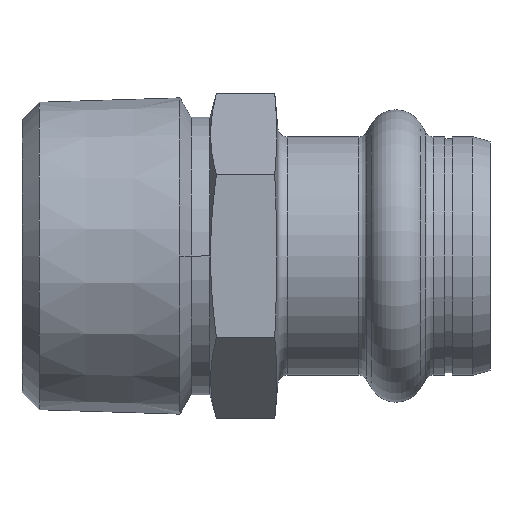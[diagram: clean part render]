
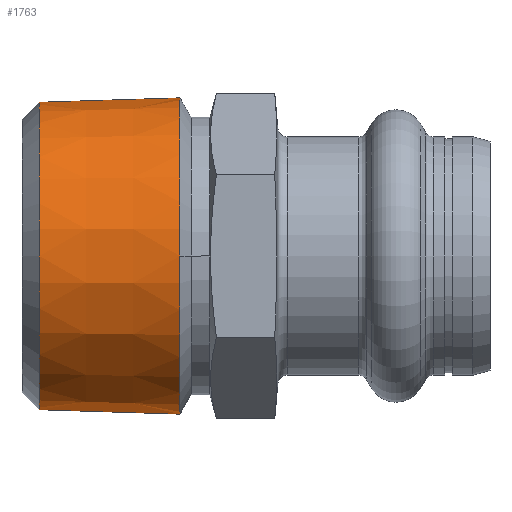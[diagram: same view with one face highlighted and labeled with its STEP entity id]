
A CAD part, left-side view. The second image highlights one B-rep face of the part: STEP entity #1763.
In plain terms, the highlighted conical face has half-angle 1.78 degrees and reference radius 16.855 mm.
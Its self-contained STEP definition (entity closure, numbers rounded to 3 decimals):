
#36 = DIRECTION ( 'NONE',  ( 0., -1., 0. ) ) ;
#178 = DIRECTION ( 'NONE',  ( 0., -1., 0. ) ) ;
#186 = DIRECTION ( 'NONE',  ( -1., 0., 0. ) ) ;
#195 = CARTESIAN_POINT ( 'NONE',  ( 0., 32.997, 0. ) ) ;
#232 = VERTEX_POINT ( 'NONE', #677 ) ;
#331 = CARTESIAN_POINT ( 'NONE',  ( 0., 32., -16.854 ) ) ;
#362 = DIRECTION ( 'NONE',  ( 0., 0., -1. ) ) ;
#386 = CARTESIAN_POINT ( 'NONE',  ( 0., 32., 16.854 ) ) ;
#391 = DIRECTION ( 'NONE',  ( 0., -1., 0.031 ) ) ;
#473 = CARTESIAN_POINT ( 'NONE',  ( 0., 32., 0. ) ) ;
#495 = AXIS2_PLACEMENT_3D ( 'NONE', #473, #178, #362 ) ;
#521 = ORIENTED_EDGE ( 'NONE', *, *, #1563, .F. ) ;
#532 = EDGE_CURVE ( 'NONE', #232, #1247, #1710, .T. ) ;
#550 = VECTOR ( 'NONE', #391, 1000. ) ;
#558 = DIRECTION ( 'NONE',  ( 0., -1., 0. ) ) ;
#623 = CIRCLE ( 'NONE', #808, 16.823 ) ;
#631 = AXIS2_PLACEMENT_3D ( 'NONE', #956, #558, #998 ) ;
#677 = CARTESIAN_POINT ( 'NONE',  ( 0., 47.941, 16.359 ) ) ;
#691 = VERTEX_POINT ( 'NONE', #975 ) ;
#722 = CARTESIAN_POINT ( 'NONE',  ( 0., 32.997, 16.823 ) ) ;
#732 = DIRECTION ( 'NONE',  ( 0., -1., -0.031 ) ) ;
#808 = AXIS2_PLACEMENT_3D ( 'NONE', #195, #36, #186 ) ;
#839 = ORIENTED_EDGE ( 'NONE', *, *, #1094, .F. ) ;
#908 = ORIENTED_EDGE ( 'NONE', *, *, #1841, .F. ) ;
#956 = CARTESIAN_POINT ( 'NONE',  ( 0., 32.997, 0. ) ) ;
#975 = CARTESIAN_POINT ( 'NONE',  ( -16.823, 32.997, 0. ) ) ;
#998 = DIRECTION ( 'NONE',  ( -1., 0., 0. ) ) ;
#1031 = CIRCLE ( 'NONE', #631, 16.823 ) ;
#1094 = EDGE_CURVE ( 'NONE', #232, #1212, #1457, .T. ) ;
#1134 = ORIENTED_EDGE ( 'NONE', *, *, #532, .T. ) ;
#1212 = VERTEX_POINT ( 'NONE', #722 ) ;
#1234 = VERTEX_POINT ( 'NONE', #1740 ) ;
#1247 = VERTEX_POINT ( 'NONE', #1620 ) ;
#1279 = EDGE_LOOP ( 'NONE', ( #839, #1134, #1443, #521, #908 ) ) ;
#1349 = VECTOR ( 'NONE', #732, 1000. ) ;
#1428 = LINE ( 'NONE', #331, #1349 ) ;
#1443 = ORIENTED_EDGE ( 'NONE', *, *, #1805, .T. ) ;
#1457 = LINE ( 'NONE', #386, #550 ) ;
#1563 = EDGE_CURVE ( 'NONE', #691, #1234, #1031, .T. ) ;
#1574 = DIRECTION ( 'NONE',  ( 0., 0., -1. ) ) ;
#1577 = DIRECTION ( 'NONE',  ( 0., -1., 0. ) ) ;
#1583 = CARTESIAN_POINT ( 'NONE',  ( 0., 47.941, 0. ) ) ;
#1620 = CARTESIAN_POINT ( 'NONE',  ( 0., 47.941, -16.359 ) ) ;
#1707 = CONICAL_SURFACE ( 'NONE', #495, 16.854, 0.031 ) ;
#1710 = CIRCLE ( 'NONE', #1852, 16.359 ) ;
#1740 = CARTESIAN_POINT ( 'NONE',  ( 0., 32.997, -16.823 ) ) ;
#1754 = FACE_OUTER_BOUND ( 'NONE', #1279, .T. ) ;
#1763 = ADVANCED_FACE ( 'NONE', ( #1754 ), #1707, .T. ) ;
#1805 = EDGE_CURVE ( 'NONE', #1247, #1234, #1428, .T. ) ;
#1841 = EDGE_CURVE ( 'NONE', #1212, #691, #623, .T. ) ;
#1852 = AXIS2_PLACEMENT_3D ( 'NONE', #1583, #1577, #1574 ) ;
